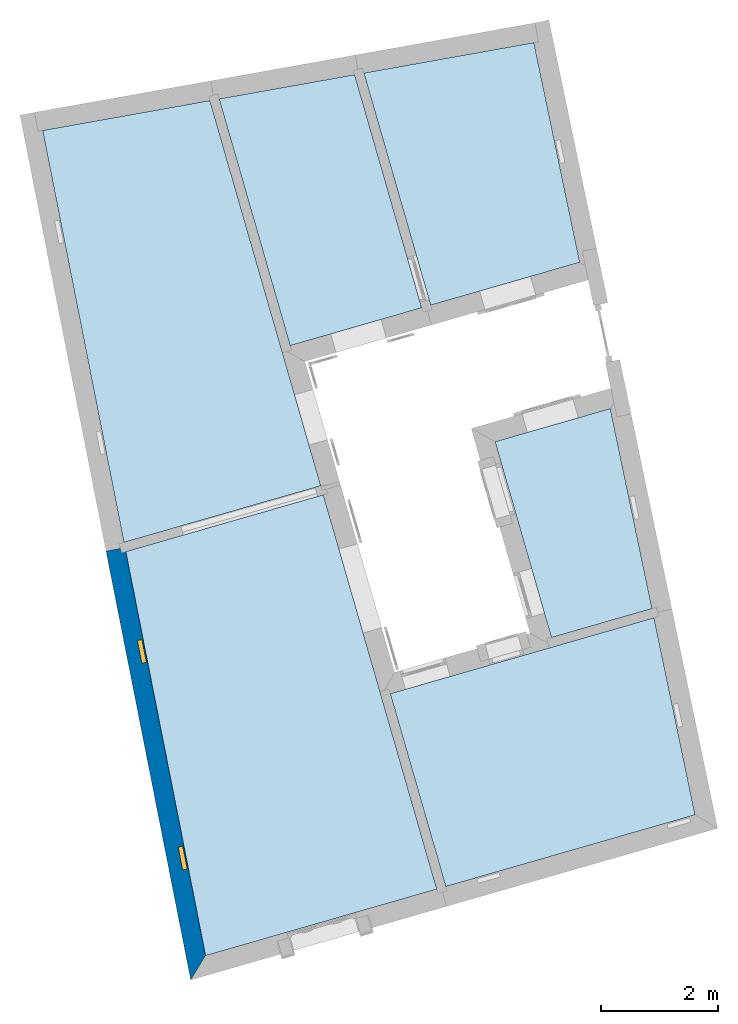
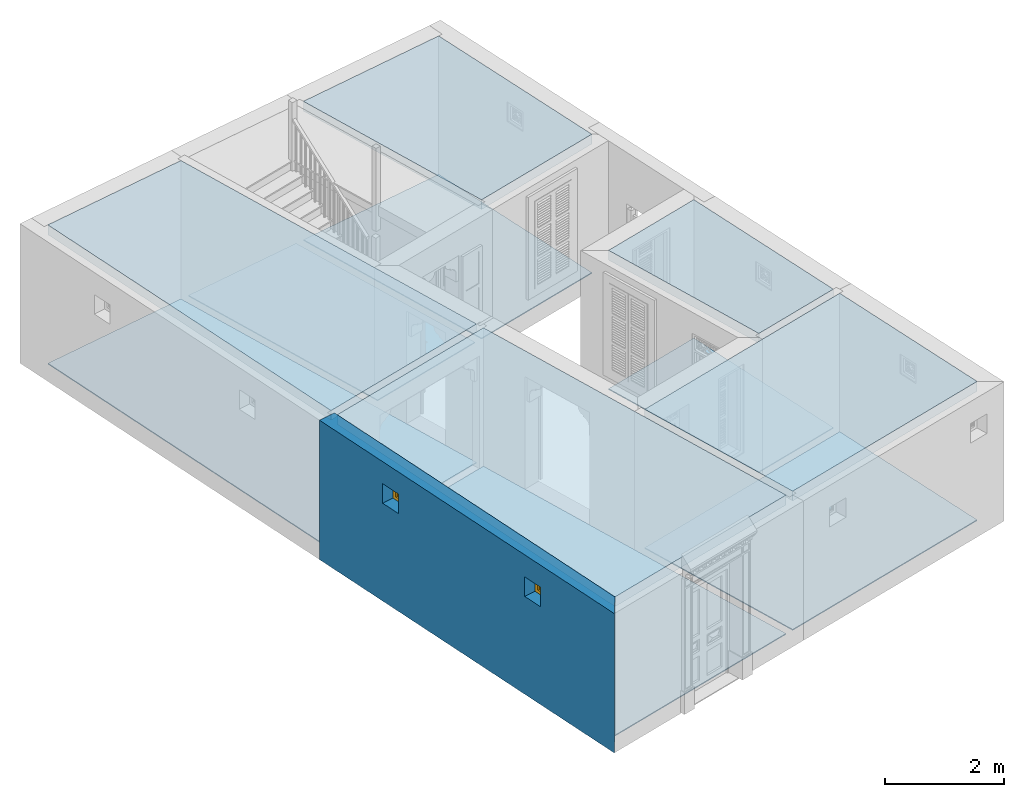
# One storey, part 1 of 16: 11 slabs, 2 windows, 1 wall, 2 openings.
"""IFC4 building model written with IfcOpenShell, lengths in metres."""

import ifcopenshell
import ifcopenshell.guid

model = None  # the IFC model being written
_history = None  # IfcOwnerHistory: only IFC2X3 demands one
_inside = {}  # id of a spatial element -> (the spatial element, [elements in it])
_under = {}  # id of a project, library or spatial element -> (it, [spatial elements below it])
_declared = {}  # id of a project -> (the project, [libraries it declares])
_typed = {}  # id of a type object -> (the type object, [elements of that type])
_made_of = {}  # id of a material, layer set ... -> (it, [elements and type objects made of it])


def new_model(schema):
    """Start an empty IFC model of exactly this schema.

    Asked for "IFC4X3", IfcOpenShell would pick the latest addendum, in which some entities
    have other attributes; the version numbers below select the first issue.
    IFC2X3 requires an IfcOwnerHistory on every rooted entity: one is made here for all.
    """
    global model, _history
    if schema == "IFC4X3":
        model = ifcopenshell.file(schema_version=(4, 3, 0, 0))
    else:
        model = ifcopenshell.file(schema=schema)
    _inside.clear()
    _under.clear()
    _declared.clear()
    _typed.clear()
    _made_of.clear()
    _history = None
    if model.schema == "IFC2X3":
        org = make("IfcOrganization", Name="unknown")
        user = make(
            "IfcPersonAndOrganization",
            ThePerson=make("IfcPerson", FamilyName="unknown"),
            TheOrganization=org,
        )
        app = make(
            "IfcApplication",
            ApplicationDeveloper=org,
            Version="unknown",
            ApplicationFullName="unknown",
            ApplicationIdentifier="unknown",
        )
        _history = make(
            "IfcOwnerHistory",
            OwningUser=user,
            OwningApplication=app,
            ChangeAction="ADDED",
            CreationDate=0,
        )
    return model


def make(cls, **values):
    """One entity of the class cls with the attributes given. An attribute that is None is left unset."""
    return model.create_entity(
        cls, **{name: value for name, value in values.items() if value is not None}
    )


def rooted(cls, **values):
    """An entity with a GlobalId (a new one), such as an element, a storey or a relation."""
    return make(cls, GlobalId=ifcopenshell.guid.new(), OwnerHistory=_history, **values)


def si_unit(unit_type, name, prefix=None):
    """IfcSIUnit, for example si_unit("LENGTHUNIT", "METRE", prefix="MILLI")."""
    return make("IfcSIUnit", UnitType=unit_type, Prefix=prefix, Name=name)


def assignment(units):
    """IfcUnitAssignment: the units of a project."""
    return None if units is None else make("IfcUnitAssignment", Units=units)


def point(xyz):
    """IfcCartesianPoint."""
    return None if xyz is None else make("IfcCartesianPoint", Coordinates=xyz)


def direction(xyz):
    """IfcDirection."""
    return None if xyz is None else make("IfcDirection", DirectionRatios=xyz)


def frame(location, z_axis=None, x_axis=None):
    """IfcAxis2Placement3D, a coordinate frame: its origin and axes. An axis left out is left unset."""
    return make(
        "IfcAxis2Placement3D",
        Location=point(location),
        Axis=direction(z_axis),
        RefDirection=direction(x_axis),
    )


def origin():
    """The frame at (0, 0, 0) with its axes left unset."""
    return frame((0.0, 0.0, 0.0))


def origin_with_axes():
    """The frame at (0, 0, 0) with the z axis (0, 0, 1) and the x axis (1, 0, 0) written out."""
    return frame((0.0, 0.0, 0.0), z_axis=(0.0, 0.0, 1.0), x_axis=(1.0, 0.0, 0.0))


def place(relative_to, where):
    """IfcLocalPlacement: puts the frame where relative to a parent placement (None: the world)."""
    return make(
        "IfcLocalPlacement", PlacementRelTo=relative_to, RelativePlacement=where
    )


def context(
    kind, dimensions, precision=None, world=None, true_north=None, identifier=None
):
    """IfcGeometricRepresentationContext, for example the 3D "Model" context."""
    return make(
        "IfcGeometricRepresentationContext",
        ContextIdentifier=identifier,
        ContextType=kind,
        CoordinateSpaceDimension=dimensions,
        Precision=precision,
        WorldCoordinateSystem=world,
        TrueNorth=true_north,
    )


def subcontext(parent, identifier, kind, view, scale=None):
    """IfcGeometricRepresentationSubContext, for example "Body" below "Model"."""
    return make(
        "IfcGeometricRepresentationSubContext",
        ContextIdentifier=identifier,
        ContextType=kind,
        ParentContext=parent,
        TargetScale=scale,
        TargetView=view,
    )


def project(units=None, contexts=None):
    """IfcProject with its units and contexts."""
    return rooted(
        "IfcProject",
        Name="project",
        RepresentationContexts=contexts,
        UnitsInContext=assignment(units),
    )


def spatial(cls, under=None, at=None, **own):
    """A site, building, storey or space (cls), placed at a placement, below another one or the project."""
    s = rooted(cls, ObjectPlacement=at, **own)
    if under is not None:
        _under.setdefault(under.id(), (under, []))[1].append(s)
    return s


def polyline(points):
    """IfcPolyline through the points."""
    return make("IfcPolyline", Points=[point(p) for p in points])


def outline(outer, holes=None, kind="AREA"):
    """IfcArbitraryClosedProfileDef: a profile drawn as a closed curve; with holes, ...WithVoids."""
    if holes is None:
        return make("IfcArbitraryClosedProfileDef", ProfileType=kind, OuterCurve=outer)
    return make(
        "IfcArbitraryProfileDefWithVoids",
        ProfileType=kind,
        OuterCurve=outer,
        InnerCurves=holes,
    )


def extrude(swept, where, along, depth):
    """IfcExtrudedAreaSolid: the profile swept, set in the frame where, extruded along a direction by depth."""
    return make(
        "IfcExtrudedAreaSolid",
        SweptArea=swept,
        Position=where,
        ExtrudedDirection=direction(along),
        Depth=depth,
    )


def faces_of(points, faces, orient=None, outer=None):
    """IfcFace entities. A face is a list of loops; a loop is a list of indices into points, from 0.

    orient and outer hold one flag for each loop. By default every Orientation is true, the
    first loop of a face is its IfcFaceOuterBound and the others are IfcFaceBound.
    """
    made = []
    for i, loops in enumerate(faces):
        bounds = []
        for j, loop in enumerate(loops):
            is_outer = j == 0 if outer is None else outer[i][j]
            bounds.append(
                make(
                    "IfcFaceOuterBound" if is_outer else "IfcFaceBound",
                    Bound=make("IfcPolyLoop", Polygon=[points[k] for k in loop]),
                    Orientation=True if orient is None else orient[i][j],
                )
            )
        made.append(make("IfcFace", Bounds=bounds))
    return made


def faceted_brep(points, faces, orient=None, outer=None, voids=None):
    """IfcFacetedBrep: a solid bounded by flat faces; with voids (closed shells), ...WithVoids."""
    shared = [point(p) for p in points]
    hull = make("IfcClosedShell", CfsFaces=faces_of(shared, faces, orient, outer))
    if voids is None:
        return make("IfcFacetedBrep", Outer=hull)
    return make(
        "IfcFacetedBrepWithVoids",
        Outer=hull,
        Voids=[
            make(cls, CfsFaces=faces_of(shared, fs, o, b)) for cls, fs, o, b in voids
        ],
    )


def shape(context_of_items, identifier, shape_type, items):
    """IfcShapeRepresentation: the items that make up one representation, for example the "Body"."""
    return make(
        "IfcShapeRepresentation",
        ContextOfItems=context_of_items,
        RepresentationIdentifier=identifier,
        RepresentationType=shape_type,
        Items=items,
    )


def source(mapping_origin, context_of_items, identifier, shape_type, items):
    """IfcRepresentationMap: a shape defined once, which mapped items show again and again."""
    return make(
        "IfcRepresentationMap",
        MappingOrigin=mapping_origin,
        MappedRepresentation=shape(context_of_items, identifier, shape_type, items),
    )


def transform(
    local_origin,
    x_axis=None,
    y_axis=None,
    z_axis=None,
    scale=None,
    scale2=None,
    scale3=None,
    uniform=True,
):
    """IfcCartesianTransformationOperator3D, or its non-uniform kind. x_axis, y_axis, z_axis: its Axis1, 2, 3."""
    if uniform:
        return make(
            "IfcCartesianTransformationOperator3D",
            Axis1=direction(x_axis),
            Axis2=direction(y_axis),
            LocalOrigin=point(local_origin),
            Scale=scale,
            Axis3=direction(z_axis),
        )
    return make(
        "IfcCartesianTransformationOperator3DnonUniform",
        Axis1=direction(x_axis),
        Axis2=direction(y_axis),
        LocalOrigin=point(local_origin),
        Scale=scale,
        Axis3=direction(z_axis),
        Scale2=scale2,
        Scale3=scale3,
    )


def mapped(mapping_source, mapping_target):
    """IfcMappedItem: shows the shape of a source again, moved by a transform."""
    return make(
        "IfcMappedItem", MappingSource=mapping_source, MappingTarget=mapping_target
    )


def material(Name=None, Category=None):
    """IfcMaterial."""
    return make("IfcMaterial", Name=Name, Category=Category)


def layer(
    of_material, thickness, ventilated=None, Name=None, Category=None, Priority=None
):
    """IfcMaterialLayer: one layer of a wall or slab, of a material (None: an air gap)."""
    return make(
        "IfcMaterialLayer",
        Material=of_material,
        LayerThickness=thickness,
        IsVentilated=ventilated,
        Name=Name,
        Category=Category,
        Priority=Priority,
    )


def layer_set(layers, Name=None):
    """IfcMaterialLayerSet."""
    return make("IfcMaterialLayerSet", MaterialLayers=layers, LayerSetName=Name)


def layer_usage(for_layer_set, set_direction, sense, offset, extent=None):
    """IfcMaterialLayerSetUsage: how a layer set lies in its element."""
    return make(
        "IfcMaterialLayerSetUsage",
        ForLayerSet=for_layer_set,
        LayerSetDirection=set_direction,
        DirectionSense=sense,
        OffsetFromReferenceLine=offset,
        ReferenceExtent=extent,
    )


def made_of(thing, what):
    """Note that an element or type object is made of a material, layer set ...; save() writes the relation."""
    if what is not None:
        _made_of.setdefault(what.id(), (what, []))[1].append(thing)
    return thing


def type_object(cls, material=None, **own):
    """A type object (cls), such as IfcWallType, which elements share."""
    return made_of(rooted(cls, **own), material)


def type_shapes(of_type, sources):
    """Give a type object the sources (RepresentationMaps) that its elements show as mapped items."""
    of_type.RepresentationMaps = sources


def element(
    cls,
    number,
    at=None,
    inside=None,
    cuts=None,
    type_object=None,
    material=None,
    context=None,
    identifier="Body",
    shape_type=None,
    held_by="IfcProductDefinitionShape",
    body=None,
    shapes=None,
    **own,
):
    """One element of the class cls, such as IfcWall. Its Tag is "e" and its number.

    at: its placement. inside: the storey or other place that contains it. cuts: it is an
    opening in that element (IfcRelVoidsElement). A single representation is given by context,
    identifier, shape_type and body (its items); several are given by shapes. held_by: the class
    of the entity that holds the representations. save() writes the other relations.
    """
    e = rooted(cls, Tag="e%d" % number, ObjectPlacement=at, **own)
    if body is not None:
        shapes = [shape(context, identifier, shape_type, body)]
    if shapes is not None:
        e.Representation = make(held_by, Representations=shapes)
    if inside is not None:
        _inside.setdefault(inside.id(), (inside, []))[1].append(e)
    if cuts is not None:
        rooted(
            "IfcRelVoidsElement", RelatingBuildingElement=cuts, RelatedOpeningElement=e
        )
    if type_object is not None:
        _typed.setdefault(type_object.id(), (type_object, []))[1].append(e)
    return made_of(e, material)


def fill(opening, filler):
    """IfcRelFillsElement: the door or window that sits in an opening."""
    return rooted(
        "IfcRelFillsElement",
        RelatingOpeningElement=opening,
        RelatedBuildingElement=filler,
    )


def aggregate(whole, parts):
    """IfcRelAggregates: a whole, such as a stair, and the parts it consists of."""
    return rooted("IfcRelAggregates", RelatingObject=whole, RelatedObjects=parts)


def save(model, path):
    """Write the relations noted so far, then the file.

    IfcRelAggregates (storeys below a building ...), IfcRelContainedInSpatialStructure (elements
    in a storey), IfcRelDefinesByType, IfcRelAssociatesMaterial and IfcRelDeclares: one each for
    every whole, place, type object, material and project.
    """
    for whole, parts in _under.values():
        aggregate(whole, parts)
    for where, things in _inside.values():
        rooted(
            "IfcRelContainedInSpatialStructure",
            RelatedElements=things,
            RelatingStructure=where,
        )
    for kind, things in _typed.values():
        rooted("IfcRelDefinesByType", RelatedObjects=things, RelatingType=kind)
    for what, things in _made_of.values():
        rooted("IfcRelAssociatesMaterial", RelatedObjects=things, RelatingMaterial=what)
    for by, libraries in _declared.values():
        rooted("IfcRelDeclares", RelatingContext=by, RelatedDefinitions=libraries)
    model.write(path)


model = new_model("IFC4")

# Units and contexts
model_context = context("Model", 3, world=origin_with_axes())
body_context = subcontext(model_context, "Body", "Model", "MODEL_VIEW")
ifc_project = project(units=[si_unit("PLANEANGLEUNIT", "RADIAN"), si_unit("MASSUNIT", "GRAM", prefix="KILO"), si_unit("FORCEUNIT", "NEWTON", prefix="KILO"), si_unit("LENGTHUNIT", "METRE"), si_unit("AREAUNIT", "SQUARE_METRE"), si_unit("VOLUMEUNIT", "CUBIC_METRE")], contexts=[model_context, model_context])

# Site, building, storey
site_placement = place(None, origin_with_axes())
site = spatial("IfcSite", under=ifc_project, at=site_placement, Name="Site plot-9", CompositionType="ELEMENT")
building_placement = place(None, origin_with_axes())
building = spatial("IfcBuilding", under=site, at=building_placement, Name="Building plot-9", CompositionType="ELEMENT")
storey_placement = place(None, origin_with_axes())
storey = spatial("IfcBuildingStorey", under=building, at=storey_placement, Name="plot-9 0", CompositionType="ELEMENT", Elevation=0.0)

# Slabs
slab_1_placement = place(storey_placement, frame((-16.9921710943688, -2.18795816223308, 2.65)))
element("IfcSlab", 1, at=slab_1_placement, inside=storey, Name="My Slab", ObjectType="Slab", PredefinedType="FLOOR", context=body_context, shape_type="SweptSolid", body=[
    extrude(outline(polyline([(0.0, 0.0), (0.952447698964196, -3.31006479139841), (5.23042138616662, -2.07910816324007), (4.52450702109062, 1.30189484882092), (0.0, 0.0)])), origin_with_axes(), (0.0, 0.0, 1.0), 0.2),
])
slab_2_placement = place(storey_placement, frame((-16.9921710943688, -2.18795816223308, 0.0)))
element("IfcSlab", 2, at=slab_2_placement, inside=storey, Name="My Slab", ObjectType="Slab", PredefinedType="FLOOR", context=body_context, shape_type="SweptSolid", body=[
    extrude(outline(polyline([(0.0, 0.0), (0.952447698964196, -3.31006479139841), (5.23042138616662, -2.07910816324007), (4.52450702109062, 1.30189484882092), (0.0, 0.0)])), origin_with_axes(), (0.0, 0.0, 1.0), 0.02),
])
slab_3_placement = place(storey_placement, frame((-13.2171707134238, 2.70372651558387, 2.65)))
element("IfcSlab", 3, at=slab_3_placement, inside=storey, Name="My Slab", ObjectType="Slab", PredefinedType="FLOOR", context=body_context, shape_type="SweptSolid", body=[
    extrude(outline(polyline([(0.0, 0.0), (-1.97686501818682, -0.568828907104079), (-1.00984457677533, -3.92953870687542), (0.716715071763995, -3.43273339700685), (0.0, 0.0)])), origin_with_axes(), (0.0, 0.0, 1.0), 0.2),
])
slab_4_placement = place(storey_placement, frame((-13.2171707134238, 2.70372651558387, 0.0)))
element("IfcSlab", 4, at=slab_4_placement, inside=storey, Name="My Slab", ObjectType="Slab", PredefinedType="FLOOR", context=body_context, shape_type="SweptSolid", body=[
    extrude(outline(polyline([(0.0, 0.0), (-1.97686501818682, -0.568828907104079), (-1.00984457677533, -3.92953870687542), (0.716715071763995, -3.43273339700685), (0.0, 0.0)])), origin_with_axes(), (0.0, 0.0, 1.0), 0.02),
])
slab_5_placement = place(storey_placement, frame((-21.5303975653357, 0.249003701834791, 2.65)))
element("IfcSlab", 5, at=slab_5_placement, inside=storey, Name="My Slab", ObjectType="Slab", PredefinedType="FLOOR", context=body_context, shape_type="SweptSolid", body=[
    extrude(outline(polyline([(0.0, 0.0), (1.36868466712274, -6.93309993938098), (5.3369130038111, -5.79127034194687), (3.3898500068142, 0.975405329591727), (0.0, 0.0)])), origin_with_axes(), (0.0, 0.0, 1.0), 0.2),
])
slab_6_placement = place(storey_placement, frame((-21.5303975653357, 0.249003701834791, 0.0)))
element("IfcSlab", 6, at=slab_6_placement, inside=storey, Name="My Slab", ObjectType="Slab", PredefinedType="FLOOR", context=body_context, shape_type="SweptSolid", body=[
    extrude(outline(polyline([(0.0, 0.0), (1.36868466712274, -6.93309993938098), (5.3369130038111, -5.79127034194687), (3.3898500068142, 0.975405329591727), (0.0, 0.0)])), origin_with_axes(), (0.0, 0.0, 1.0), 0.02),
])
slab_7_placement = place(storey_placement, frame((-18.1847912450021, 1.3781701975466, 2.65)))
element("IfcSlab", 7, at=slab_7_placement, inside=storey, Name="My Slab", ObjectType="Slab", PredefinedType="FLOOR", context=body_context, shape_type="SweptSolid", body=[
    extrude(outline(polyline([(0.0, 0.0), (-1.90189987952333, 6.60971918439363), (-4.77207082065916, 6.09661836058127), (-3.37670734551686, -0.971623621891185), (0.0, 0.0)])), origin_with_axes(), (0.0, 0.0, 1.0), 0.2),
])
slab_8_placement = place(storey_placement, frame((-18.1847912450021, 1.3781701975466, 0.0)))
element("IfcSlab", 8, at=slab_8_placement, inside=storey, Name="My Slab", ObjectType="Slab", PredefinedType="FLOOR", context=body_context, shape_type="SweptSolid", body=[
    extrude(outline(polyline([(0.0, 0.0), (-1.90189987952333, 6.60971918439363), (-4.77207082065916, 6.09661836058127), (-3.37670734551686, -0.971623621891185), (0.0, 0.0)])), origin_with_axes(), (0.0, 0.0, 1.0), 0.02),
])
slab_9_placement = place(storey_placement, frame((-14.5279245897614, 8.98163078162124, 2.65)))
element("IfcSlab", 9, at=slab_9_placement, inside=storey, Name="My Slab", ObjectType="Slab", PredefinedType="FLOOR", context=body_context, shape_type="SweptSolid", body=[
    extrude(outline(polyline([(0.0, 0.0), (-2.91770092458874, -0.521597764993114), (-1.77141169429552, -4.50532477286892), (0.786959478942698, -3.76917158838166), (0.0, 0.0)])), origin_with_axes(), (0.0, 0.0, 1.0), 0.2),
])
slab_10_placement = place(storey_placement, frame((-14.5279245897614, 8.98163078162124, 0.0)))
element("IfcSlab", 10, at=slab_10_placement, inside=storey, Name="My Slab", ObjectType="Slab", PredefinedType="FLOOR", context=body_context, shape_type="SweptSolid", body=[
    extrude(outline(polyline([(0.0, 0.0), (-2.91770092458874, -0.521597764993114), (-1.77141169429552, -4.50532477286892), (0.786959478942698, -3.76917158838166), (0.0, 0.0)])), origin_with_axes(), (0.0, 0.0, 1.0), 0.02),
])
slab_11_placement = place(storey_placement, frame((-17.6039721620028, 8.43172536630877, 0.0)))
element("IfcSlab", 11, at=slab_11_placement, inside=storey, Name="My Slab", ObjectType="Slab", PredefinedType="FLOOR", context=body_context, shape_type="SweptSolid", body=[
    extrude(outline(polyline([(0.0, 0.0), (-2.32437231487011, -0.415528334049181), (-1.10618726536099, -4.64911664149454), (1.15087471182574, -3.99966304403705), (0.0, 0.0)])), origin_with_axes(), (0.0, 0.0, 1.0), 0.02),
])

# Wall, openings, windows
ifc_material = material(Name="Masonry")
ifc_layer = layer(ifc_material, 0.33, ventilated=False)
ifc_layer_set = layer_set([ifc_layer], Name="exterior_0.08_0.25")
ifc_layer_usage = layer_usage(ifc_layer_set, "AXIS2", "POSITIVE", -0.25)
wall_type = type_object("IfcWallType", Name="exterior_0.08_0.25", PredefinedType="SOLIDWALL", material=ifc_layer_set)
wall_placement = place(storey_placement, frame((-21.623108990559, 0.305572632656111, 0.0), z_axis=(0.0, 0.0, 1.0), x_axis=(0.193675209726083, -0.981065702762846, 0.0)))
wall = element("IfcWall", 12, at=wall_placement, inside=storey, type_object=wall_type, material=ifc_layer_usage, Name="exterior", context=body_context, shape_type="SweptSolid", body=[
    extrude(outline(polyline([(-4.83921179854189e-17, 0.0800000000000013), (6.2020955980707e-16, -0.250000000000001), (7.49977046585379, -0.250000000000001), (7.1403605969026, 0.0800000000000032), (-4.83921179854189e-17, 0.0800000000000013)])), origin_with_axes(), (0.0, 0.0, 1.0), 2.85),
])
opening_1_placement = place(wall_placement, frame((1.60687256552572, 0.0, 2.0)))
opening_1 = element("IfcOpeningElement", 13, at=opening_1_placement, cuts=wall, Name="My Opening", ObjectType="Opening", context=body_context, shape_type="SweptSolid", body=[
    extrude(outline(polyline([(0.0, -0.270000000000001), (0.4, -0.270000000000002), (0.400000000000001, 1.1), (1.11022302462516e-15, 1.1), (0.0, -0.270000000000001)])), origin_with_axes(), (0.0, 0.0, 1.0), 0.4),
])
opening_2_placement = place(wall_placement, frame((5.22061769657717, 0.0, 2.0)))
opening_2 = element("IfcOpeningElement", 14, at=opening_2_placement, cuts=wall, Name="My Opening", ObjectType="Opening", context=body_context, shape_type="SweptSolid", body=[
    extrude(outline(polyline([(0.0, -0.27), (0.399999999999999, -0.270000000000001), (0.400000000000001, 1.1), (8.88178419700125e-16, 1.1), (0.0, -0.27)])), origin_with_axes(), (0.0, 0.0, 1.0), 0.4),
])
window_type = type_object("IfcWindowType", Name="barred_window", PartitioningType="DOUBLE_PANEL_HORIZONTAL", PredefinedType="NOTDEFINED")
shared_shape = source(origin(), body_context, "Body", "Brep", [
    faceted_brep([(0.4, 0.25, 0.4), (0.0, 0.25, 0.4), (0.06, 0.25, 0.34), (0.34, 0.25, 0.34), (0.06, 0.33, 0.34), (0.34, 0.33, 0.34), (0.34, 0.25, 0.06), (0.4, 0.25, 0.0), (0.4, 0.33, 0.4), (0.0, 0.33, 0.4), (0.0, 0.25, 0.0), (0.06, 0.25, 0.06), (0.06, 0.33, 0.06), (0.34, 0.33, 0.06), (0.4, 0.33, 0.0), (0.0, 0.33, 0.0), (0.136152, 0.28, 0.08), (0.08, 0.28, 0.08), (0.06, 0.28, 0.06), (0.136152, 0.28, 0.06), (0.136152, 0.29, 0.08), (0.08, 0.29, 0.08), (0.06, 0.28, 0.136152), (0.08, 0.28, 0.136152), (0.06, 0.29, 0.06), (0.136152, 0.29, 0.06), (0.170294, 0.28, 0.08), (0.170294, 0.28, 0.06), (0.136152, 0.28, 0.136152), (0.136152, 0.29, 0.136152), (0.08, 0.29, 0.136152), (0.06, 0.29, 0.136152), (0.08, 0.28, 0.170294), (0.06, 0.28, 0.170294), (0.170294, 0.29, 0.06), (0.229706, 0.28, 0.08), (0.229706, 0.28, 0.06), (0.156152, 0.28, 0.094142), (0.156152, 0.28, 0.136152), (0.185858, 0.28, 0.123848), (0.185858, 0.29, 0.123848), (0.156152, 0.29, 0.094142), (0.156152, 0.29, 0.136152), (0.229706, 0.29, 0.08), (0.170294, 0.29, 0.08), (0.2, 0.28, 0.109706), (0.2, 0.29, 0.109706), (0.06, 0.29, 0.170294), (0.094142, 0.28, 0.156152), (0.08, 0.28, 0.229706), (0.06, 0.28, 0.229706), (0.229706, 0.29, 0.06), (0.263848, 0.28, 0.08), (0.263848, 0.28, 0.06), (0.156152, 0.28, 0.156152), (0.136152, 0.28, 0.156152), (0.173553, 0.28, 0.136152), (0.173553, 0.29, 0.136152), (0.156152, 0.29, 0.156152), (0.136152, 0.29, 0.156152), (0.094142, 0.29, 0.156152), (0.08, 0.29, 0.170294), (0.06, 0.29, 0.229706), (0.123848, 0.28, 0.185858), (0.109706, 0.28, 0.2), (0.08, 0.29, 0.229706), (0.08, 0.28, 0.263848), (0.06, 0.28, 0.263848), (0.263848, 0.29, 0.06), (0.2, 0.28, 0.13799), (0.214142, 0.28, 0.123848), (0.34, 0.28, 0.06), (0.32, 0.28, 0.08), (0.181838, 0.28, 0.156152), (0.136152, 0.28, 0.173553), (0.156152, 0.28, 0.181838), (0.181838, 0.29, 0.156152), (0.2, 0.29, 0.13799), (0.214142, 0.29, 0.123848), (0.136152, 0.29, 0.173553), (0.156152, 0.29, 0.181838), (0.243848, 0.28, 0.094142), (0.243848, 0.29, 0.094142), (0.263848, 0.28, 0.136152), (0.263848, 0.29, 0.08), (0.263848, 0.29, 0.136152), (0.32, 0.29, 0.08), (0.243848, 0.28, 0.136152), (0.243848, 0.29, 0.136152), (0.06, 0.29, 0.263848), (0.123848, 0.29, 0.185858), (0.13799, 0.28, 0.2), (0.123848, 0.28, 0.214142), (0.109706, 0.29, 0.2), (0.094142, 0.28, 0.243848), (0.08, 0.28, 0.32), (0.06, 0.28, 0.34), (0.34, 0.29, 0.06), (0.218162, 0.28, 0.156152), (0.226447, 0.28, 0.136152), (0.34, 0.28, 0.229706), (0.32, 0.28, 0.229706), (0.32, 0.28, 0.170294), (0.32, 0.28, 0.136152), (0.218162, 0.29, 0.156152), (0.226447, 0.29, 0.136152), (0.13799, 0.29, 0.2), (0.32, 0.29, 0.136152), (0.08, 0.29, 0.263848), (0.06, 0.29, 0.34), (0.136152, 0.28, 0.226447), (0.156152, 0.28, 0.218162), (0.094142, 0.29, 0.243848), (0.123848, 0.29, 0.214142), (0.136152, 0.28, 0.243848), (0.136152, 0.28, 0.263848), (0.08, 0.29, 0.32), (0.136152, 0.28, 0.34), (0.136152, 0.28, 0.32), (0.34, 0.29, 0.229706), (0.243848, 0.28, 0.156152), (0.263848, 0.28, 0.156152), (0.34, 0.28, 0.263848), (0.32, 0.28, 0.263848), (0.32, 0.29, 0.229706), (0.32, 0.29, 0.170294), (0.290294, 0.28, 0.2), (0.276152, 0.28, 0.185858), (0.305858, 0.28, 0.156152), (0.243848, 0.29, 0.156152), (0.263848, 0.29, 0.156152), (0.305858, 0.29, 0.156152), (0.276152, 0.29, 0.185858), (0.290294, 0.29, 0.2), (0.136152, 0.29, 0.34), (0.136152, 0.29, 0.226447), (0.156152, 0.29, 0.218162), (0.156152, 0.28, 0.243848), (0.136152, 0.29, 0.243848), (0.156152, 0.28, 0.263848), (0.136152, 0.29, 0.263848), (0.136152, 0.29, 0.32), (0.170294, 0.28, 0.32), (0.170294, 0.28, 0.34), (0.34, 0.29, 0.263848), (0.243848, 0.28, 0.181838), (0.263848, 0.28, 0.173553), (0.34, 0.28, 0.34), (0.32, 0.28, 0.32), (0.305858, 0.28, 0.243848), (0.276152, 0.28, 0.214142), (0.26201, 0.28, 0.2), (0.243848, 0.29, 0.181838), (0.263848, 0.29, 0.173553), (0.26201, 0.29, 0.2), (0.276152, 0.29, 0.214142), (0.32, 0.29, 0.263848), (0.170294, 0.29, 0.34), (0.156152, 0.29, 0.243848), (0.173553, 0.28, 0.263848), (0.181838, 0.28, 0.243848), (0.156152, 0.28, 0.305858), (0.229706, 0.28, 0.32), (0.229706, 0.28, 0.34), (0.34, 0.29, 0.34), (0.263848, 0.28, 0.34), (0.263848, 0.28, 0.32), (0.32, 0.29, 0.32), (0.263848, 0.28, 0.263848), (0.263848, 0.28, 0.243848), (0.305858, 0.29, 0.243848), (0.263848, 0.28, 0.226447), (0.243848, 0.28, 0.218162), (0.243848, 0.29, 0.218162), (0.263848, 0.29, 0.226447), (0.156152, 0.29, 0.263848), (0.170294, 0.29, 0.32), (0.229706, 0.29, 0.34), (0.181838, 0.29, 0.243848), (0.173553, 0.29, 0.263848), (0.185858, 0.28, 0.276152), (0.2, 0.28, 0.26201), (0.156152, 0.29, 0.305858), (0.229706, 0.29, 0.32), (0.263848, 0.29, 0.34), (0.263848, 0.29, 0.32), (0.263848, 0.29, 0.263848), (0.243848, 0.28, 0.243848), (0.243848, 0.28, 0.263848), (0.263848, 0.29, 0.243848), (0.243848, 0.29, 0.243848), (0.2, 0.29, 0.26201), (0.185858, 0.29, 0.276152), (0.214142, 0.28, 0.276152), (0.218162, 0.28, 0.243848), (0.226447, 0.28, 0.263848), (0.243848, 0.28, 0.305858), (0.2, 0.28, 0.290294), (0.2, 0.29, 0.290294), (0.243848, 0.29, 0.263848), (0.218162, 0.29, 0.243848), (0.214142, 0.29, 0.276152), (0.226447, 0.29, 0.263848), (0.243848, 0.29, 0.305858)], [[[0, 1, 2, 3]], [[3, 2, 4, 5]], [[3, 6, 7, 0]], [[1, 0, 8, 9]], [[1, 10, 11, 2]], [[2, 11, 12, 4]], [[9, 8, 5, 4]], [[6, 3, 5, 13]], [[6, 11, 10, 7]], [[0, 7, 14, 8]], [[10, 1, 9, 15]], [[11, 6, 13, 12]], [[4, 12, 15, 9]], [[8, 14, 13, 5]], [[7, 10, 15, 14]], [[12, 13, 14, 15]], [[16, 17, 18, 19]], [[17, 16, 20, 21]], [[22, 18, 17, 23]], [[19, 18, 24, 25]], [[26, 16, 19, 27]], [[16, 28, 29, 20]], [[21, 20, 25, 24]], [[23, 17, 21, 30]], [[18, 22, 31, 24]], [[23, 32, 33, 22]], [[27, 19, 25, 34]], [[35, 26, 27, 36]], [[28, 16, 37, 38]], [[37, 39, 40, 41]], [[38, 37, 41, 42]], [[20, 29, 42, 41]], [[26, 35, 43, 44]], [[45, 26, 44, 46]], [[20, 44, 34, 25]], [[28, 23, 30, 29]], [[24, 31, 30, 21]], [[22, 33, 47, 31]], [[48, 32, 23]], [[32, 49, 50, 33]], [[36, 27, 34, 51]], [[39, 37, 26, 45]], [[52, 35, 36, 53]], [[38, 54, 55, 28]], [[39, 56, 57, 40]], [[41, 40, 46, 44]], [[56, 38, 42, 57]], [[58, 42, 29, 59]], [[35, 45, 46, 43]], [[44, 43, 51, 34]], [[23, 28, 55, 48]], [[29, 30, 60, 59]], [[61, 30, 31, 47]], [[33, 50, 62, 47]], [[48, 63, 64, 32]], [[49, 32, 61, 65]], [[49, 66, 67, 50]], [[53, 36, 51, 68]], [[69, 39, 45, 70]], [[53, 71, 72, 52]], [[73, 54, 38, 56]], [[74, 55, 54, 75]], [[56, 39, 69, 73]], [[40, 57, 76, 77]], [[40, 77, 78, 46]], [[58, 76, 57, 42]], [[59, 79, 80, 58]], [[45, 35, 81, 70]], [[43, 46, 78, 82]], [[83, 52, 84, 85]], [[82, 84, 43]], [[52, 72, 86, 84]], [[43, 84, 68, 51]], [[44, 20, 41]], [[70, 81, 82, 78]], [[81, 87, 88, 82]], [[48, 55, 59, 60]], [[61, 60, 30]], [[65, 61, 47, 62]], [[50, 67, 89, 62]], [[63, 48, 60, 90]], [[63, 91, 92, 64]], [[32, 64, 93, 61]], [[64, 49, 65, 93]], [[94, 66, 49]], [[66, 95, 96, 67]], [[71, 53, 68, 97]], [[98, 69, 70, 99]], [[81, 52, 83, 87]], [[72, 71, 100]], [[100, 101, 102]], [[103, 72, 100]], [[100, 102, 103]], [[54, 73, 76, 58]], [[55, 74, 79, 59]], [[75, 54, 58, 80]], [[63, 74, 75, 91]], [[73, 69, 77, 76]], [[77, 104, 105, 78]], [[79, 90, 106, 80]], [[84, 82, 88, 85]], [[103, 83, 85, 107]], [[72, 103, 107, 86]], [[97, 68, 84, 86]], [[99, 70, 78, 105]], [[87, 99, 105, 88]], [[90, 60, 61, 93]], [[108, 65, 62, 89]], [[67, 96, 109, 89]], [[74, 63, 90, 79]], [[110, 92, 91, 111]], [[49, 64, 92, 94]], [[93, 65, 112, 113]], [[94, 114, 115, 66]], [[95, 66, 108, 116]], [[117, 96, 95, 118]], [[100, 71, 97, 119]], [[69, 98, 104, 77]], [[99, 87, 120, 98]], [[87, 83, 121, 120]], [[101, 100, 122, 123]], [[102, 101, 124, 125]], [[121, 83, 103]], [[103, 102, 126]], [[126, 127, 128]], [[128, 121, 103]], [[103, 126, 128]], [[91, 75, 80, 106]], [[88, 105, 104, 129]], [[106, 90, 93, 113]], [[85, 88, 129, 130]], [[107, 85, 130]], [[131, 132, 133]], [[107, 130, 131]], [[133, 125, 107]], [[107, 131, 133]], [[124, 119, 97]], [[97, 86, 107]], [[107, 125, 124]], [[97, 107, 124]], [[108, 112, 65]], [[116, 108, 89, 109]], [[96, 117, 134, 109]], [[92, 110, 135, 113]], [[111, 91, 106, 136]], [[114, 110, 111, 137]], [[94, 92, 113, 112]], [[114, 94, 112, 138]], [[114, 137, 139, 115]], [[66, 115, 140, 108]], [[118, 95, 116, 141]], [[118, 142, 143, 117]], [[122, 100, 119, 144]], [[98, 120, 129, 104]], [[145, 120, 121, 146]], [[122, 147, 148, 123]], [[123, 149, 101]], [[101, 126, 133, 124]], [[126, 102, 125, 133]], [[127, 126, 150, 151]], [[128, 127, 132, 131]], [[121, 128, 131, 130]], [[113, 135, 136, 106]], [[129, 152, 153, 130]], [[133, 132, 154, 155]], [[119, 124, 156, 144]], [[138, 112, 108, 140]], [[109, 134, 141, 116]], [[117, 143, 157, 134]], [[110, 114, 138, 135]], [[137, 111, 136, 158]], [[159, 139, 137, 160]], [[118, 115, 139, 161]], [[115, 118, 141, 140]], [[161, 142, 118]], [[162, 163, 143, 142]], [[147, 122, 144, 164]], [[120, 145, 152, 129]], [[146, 121, 130, 153]], [[146, 127, 151, 145]], [[147, 165, 166, 148]], [[123, 148, 167, 156]], [[149, 123, 168, 169]], [[149, 150, 126, 101]], [[155, 170, 124, 133]], [[151, 150, 171, 172]], [[127, 146, 153, 132]], [[135, 138, 158, 136]], [[132, 153, 152, 154]], [[155, 154, 173, 174]], [[170, 156, 124]], [[164, 144, 156, 167]], [[158, 138, 140, 175]], [[176, 141, 134, 157]], [[143, 163, 177, 157]], [[160, 137, 158, 178]], [[139, 159, 179, 175]], [[180, 159, 160, 181]], [[161, 139, 175, 182]], [[140, 141, 182, 175]], [[166, 165, 163, 162]], [[162, 142, 176, 183]], [[165, 147, 164, 184]], [[145, 151, 154, 152]], [[148, 166, 185, 167]], [[156, 186, 168, 123]], [[187, 169, 168, 188]], [[149, 169, 189, 170]], [[150, 149, 170, 155]], [[171, 150, 155, 174]], [[171, 169, 187, 172]], [[151, 172, 173, 154]], [[189, 174, 173, 190]], [[156, 170, 189, 186]], [[184, 164, 167, 185]], [[175, 179, 178, 158]], [[176, 182, 141]], [[177, 183, 176, 157]], [[163, 165, 184, 177]], [[181, 160, 178, 191]], [[159, 180, 192, 179]], [[180, 161, 182, 192]], [[193, 181, 194, 195]], [[196, 162, 197, 193]], [[180, 197, 142, 161]], [[197, 180, 181, 193]], [[142, 197, 198, 176]], [[162, 196, 166]], [[35, 52, 81]], [[197, 162, 183, 198]], [[185, 166, 168, 186]], [[196, 188, 168, 166]], [[187, 188, 195, 194]], [[169, 171, 174, 189]], [[172, 187, 190, 173]], [[189, 190, 199, 186]], [[184, 185, 183, 177]], [[179, 192, 191, 178]], [[176, 198, 192, 182]], [[194, 181, 191, 200]], [[191, 192, 198, 201]], [[26, 37, 16]], [[193, 195, 202, 201]], [[196, 193, 201, 203]], [[191, 201, 202, 200]], [[183, 203, 201, 198]], [[188, 196, 203, 199]], [[203, 183, 185]], [[199, 203, 185, 186]], [[195, 188, 199, 202]], [[187, 194, 200, 190]], [[199, 190, 200, 202]]]),
])
type_shapes(window_type, [shared_shape])
window_1_placement = place(storey_placement, frame((-21.5767853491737, -1.32316723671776, 2.0), z_axis=(0.0, 0.0, 1.0), x_axis=(0.0774700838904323, -0.392426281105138, 0.0)))
window_1 = element("IfcWindow", 15, at=window_1_placement, inside=storey, type_object=window_type, Name="living street window", OverallHeight=0.4, OverallWidth=0.4, context=body_context, shape_type="MappedRepresentation", body=[
    mapped(shared_shape, transform((0.0, 0.0, 0.0), scale=1.0)),
])
fill(opening_1, window_1)
window_2_placement = place(storey_placement, frame((-20.8768925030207, -4.86848864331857, 2.0), z_axis=(0.0, 0.0, 1.0), x_axis=(0.0774700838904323, -0.392426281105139, 0.0)))
window_2 = element("IfcWindow", 16, at=window_2_placement, inside=storey, type_object=window_type, Name="living street window", OverallHeight=0.4, OverallWidth=0.4, context=body_context, shape_type="MappedRepresentation", body=[
    mapped(shared_shape, transform((0.0, 0.0, 0.0), scale=1.0)),
])
fill(opening_2, window_2)

save(model, "model.ifc")
